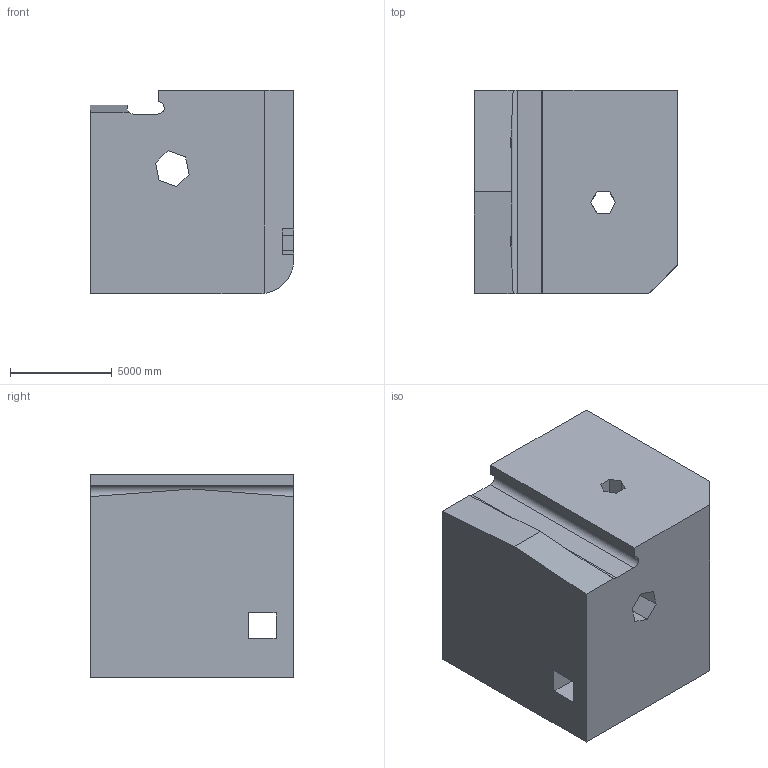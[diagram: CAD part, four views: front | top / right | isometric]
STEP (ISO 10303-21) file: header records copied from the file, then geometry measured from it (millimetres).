
FILE_DESCRIPTION (( 'STEP AP203' ), '1' );
FILE_NAME ('84.STEP', '2022-08-30T14:28:22', ( 'user' ), ( '' ), 'SwSTEP 2.0', 'SolidWorks 2021', '' );
FILE_SCHEMA (( 'CONFIG_CONTROL_DESIGN' ));
Length unit declared in the file: centimetre
Products named in the file (1): 84
Bounding box: 10000 x 10000 x 10000 mm (x, y, z)
Volume: 886605055940.6 mm3; surface area: 750775970.7 mm2
Topology: 1 solids, 1 shells, 39 faces, 114 edges, 76 vertices
Faces by surface type: plane 34, cylinder 5
Entity records: 1373 total; most frequent: CARTESIAN_POINT 251, ORIENTED_EDGE 228, DIRECTION 199, EDGE_CURVE 114, LINE 95, VECTOR 95, VERTEX_POINT 76, AXIS2_PLACEMENT_3D 52
